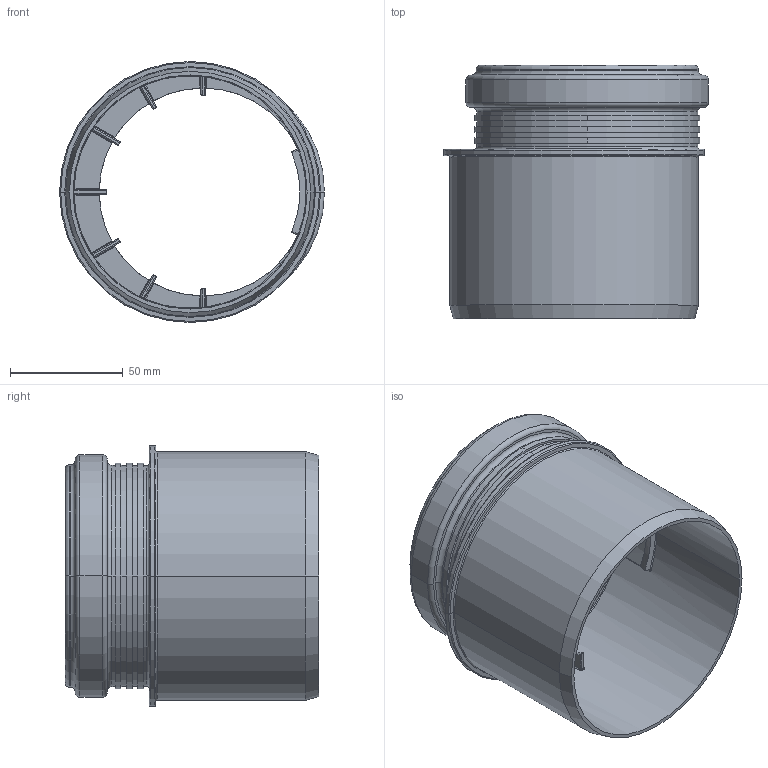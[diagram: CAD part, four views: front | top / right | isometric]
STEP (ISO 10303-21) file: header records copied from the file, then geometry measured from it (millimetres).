
FILE_DESCRIPTION((''),'2;1');
FILE_NAME('9_820_136_ASM','2012-04-04T',('ealbers'),('NET'),'PRO/ENGINEER BY PARAMETRIC TECHNOLOGY CORPORATION, 2009220','PRO/ENGINEER BY PARAMETRIC TECHNOLOGY CORPORATION, 2009220','');
FILE_SCHEMA(('AUTOMOTIVE_DESIGN_CC2 { 1 2 10303 214 -1 1 5 2 }'));
Length unit declared in the file: millimetre
Products named in the file (2): PR980_201_00; 9_820_136_ASM
Assembly tree (1 placements, depth 2):
  9_820_136_ASM
    PR980_201_00
Bounding box: 117.2 x 112.12 x 115.5 mm (x, y, z)
Volume: 134035.6 mm3; surface area: 87450.1 mm2
Topology: 1 solids, 1 shells, 214 faces, 502 edges, 296 vertices
Faces by surface type: cylinder 78, torus 44, plane 40, bspline 32, cone 20
Entity records: 7782 total; most frequent: CARTESIAN_POINT 2938, ORIENTED_EDGE 1004, DIRECTION 998, EDGE_CURVE 502, AXIS2_PLACEMENT_3D 421, VERTEX_POINT 296, CIRCLE 236, EDGE_LOOP 222
